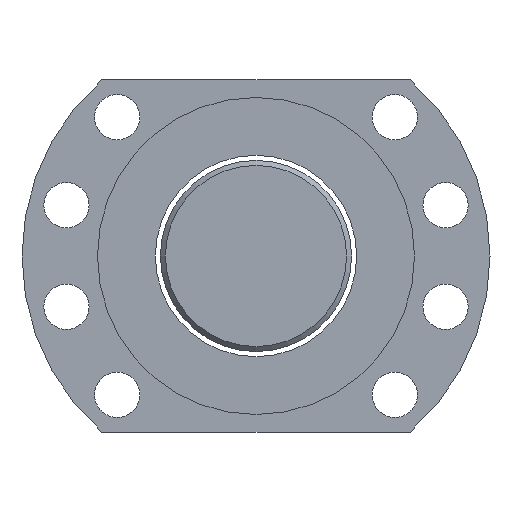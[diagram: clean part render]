
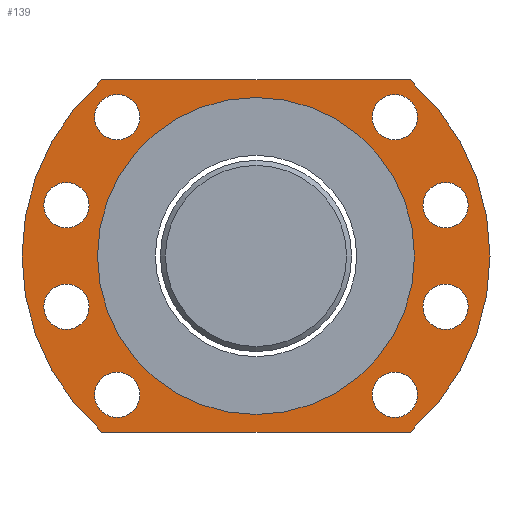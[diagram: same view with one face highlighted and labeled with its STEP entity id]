
A CAD part, left-side view. The second image highlights one B-rep face of the part: STEP entity #139.
In plain terms, the highlighted planar face has unit normal (-1, 0, 0).
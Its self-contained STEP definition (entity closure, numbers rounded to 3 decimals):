
#114=PLANE('',#489);
#123=LINE('',#680,#131);
#124=LINE('',#684,#132);
#131=VECTOR('',#562,1.);
#132=VECTOR('',#565,1.);
#139=ADVANCED_FACE('',(#187,#188,#189,#190,#191,#192,#193,#194,#195,#196),
#114,.T.);
#187=FACE_BOUND('',#239,.T.);
#188=FACE_BOUND('',#240,.T.);
#189=FACE_BOUND('',#241,.T.);
#190=FACE_BOUND('',#242,.T.);
#191=FACE_BOUND('',#243,.T.);
#192=FACE_BOUND('',#244,.T.);
#193=FACE_BOUND('',#245,.T.);
#194=FACE_BOUND('',#246,.T.);
#195=FACE_BOUND('',#247,.T.);
#196=FACE_BOUND('',#248,.T.);
#239=EDGE_LOOP('',(#300));
#240=EDGE_LOOP('',(#301));
#241=EDGE_LOOP('',(#302));
#242=EDGE_LOOP('',(#303));
#243=EDGE_LOOP('',(#304));
#244=EDGE_LOOP('',(#305,#306,#307,#308));
#245=EDGE_LOOP('',(#309));
#246=EDGE_LOOP('',(#310));
#247=EDGE_LOOP('',(#311));
#248=EDGE_LOOP('',(#312));
#300=ORIENTED_EDGE('',*,*,#409,.T.);
#301=ORIENTED_EDGE('',*,*,#410,.T.);
#302=ORIENTED_EDGE('',*,*,#411,.F.);
#303=ORIENTED_EDGE('',*,*,#412,.F.);
#304=ORIENTED_EDGE('',*,*,#413,.F.);
#305=ORIENTED_EDGE('',*,*,#414,.T.);
#306=ORIENTED_EDGE('',*,*,#415,.T.);
#307=ORIENTED_EDGE('',*,*,#416,.T.);
#308=ORIENTED_EDGE('',*,*,#417,.T.);
#309=ORIENTED_EDGE('',*,*,#418,.F.);
#310=ORIENTED_EDGE('',*,*,#419,.T.);
#311=ORIENTED_EDGE('',*,*,#420,.F.);
#312=ORIENTED_EDGE('',*,*,#421,.T.);
#375=VERTEX_POINT('',#668);
#376=VERTEX_POINT('',#670);
#377=VERTEX_POINT('',#672);
#378=VERTEX_POINT('',#674);
#379=VERTEX_POINT('',#676);
#380=VERTEX_POINT('',#678);
#381=VERTEX_POINT('',#679);
#382=VERTEX_POINT('',#681);
#383=VERTEX_POINT('',#683);
#384=VERTEX_POINT('',#686);
#385=VERTEX_POINT('',#688);
#386=VERTEX_POINT('',#690);
#387=VERTEX_POINT('',#692);
#409=EDGE_CURVE('',#375,#375,#445,.T.);
#410=EDGE_CURVE('',#376,#376,#446,.T.);
#411=EDGE_CURVE('',#377,#377,#447,.T.);
#412=EDGE_CURVE('',#378,#378,#448,.T.);
#413=EDGE_CURVE('',#379,#379,#449,.T.);
#414=EDGE_CURVE('',#380,#381,#450,.T.);
#415=EDGE_CURVE('',#381,#382,#123,.T.);
#416=EDGE_CURVE('',#382,#383,#451,.T.);
#417=EDGE_CURVE('',#383,#380,#124,.T.);
#418=EDGE_CURVE('',#384,#384,#452,.T.);
#419=EDGE_CURVE('',#385,#385,#453,.T.);
#420=EDGE_CURVE('',#386,#386,#454,.T.);
#421=EDGE_CURVE('',#387,#387,#455,.T.);
#445=CIRCLE('',#478,4.5);
#446=CIRCLE('',#479,4.5);
#447=CIRCLE('',#480,4.5);
#448=CIRCLE('',#481,4.5);
#449=CIRCLE('',#482,4.5);
#450=CIRCLE('',#483,46.5);
#451=CIRCLE('',#484,46.5);
#452=CIRCLE('',#485,31.5);
#453=CIRCLE('',#486,4.5);
#454=CIRCLE('',#487,4.5);
#455=CIRCLE('',#488,4.5);
#478=AXIS2_PLACEMENT_3D('',#667,#550,#551);
#479=AXIS2_PLACEMENT_3D('',#669,#552,#553);
#480=AXIS2_PLACEMENT_3D('',#671,#554,#555);
#481=AXIS2_PLACEMENT_3D('',#673,#556,#557);
#482=AXIS2_PLACEMENT_3D('',#675,#558,#559);
#483=AXIS2_PLACEMENT_3D('',#677,#560,#561);
#484=AXIS2_PLACEMENT_3D('',#682,#563,#564);
#485=AXIS2_PLACEMENT_3D('',#685,#566,#567);
#486=AXIS2_PLACEMENT_3D('',#687,#568,#569);
#487=AXIS2_PLACEMENT_3D('',#689,#570,#571);
#488=AXIS2_PLACEMENT_3D('',#691,#572,#573);
#489=AXIS2_PLACEMENT_3D('',#693,#574,#575);
#550=DIRECTION('',(1.,0.,0.));
#551=DIRECTION('',(0.,0.,1.));
#552=DIRECTION('',(1.,0.,0.));
#553=DIRECTION('',(0.,0.,1.));
#554=DIRECTION('',(-1.,0.,0.));
#555=DIRECTION('',(0.,0.,1.));
#556=DIRECTION('',(-1.,0.,0.));
#557=DIRECTION('',(0.,0.,1.));
#558=DIRECTION('',(-1.,0.,0.));
#559=DIRECTION('',(0.,0.,1.));
#560=DIRECTION('',(-1.,0.,0.));
#561=DIRECTION('',(0.,0.,-1.));
#562=DIRECTION('',(0.,-1.,0.));
#563=DIRECTION('',(-1.,0.,0.));
#564=DIRECTION('',(0.,0.,-1.));
#565=DIRECTION('',(0.,1.,0.));
#566=DIRECTION('',(-1.,0.,0.));
#567=DIRECTION('',(0.,0.,-1.));
#568=DIRECTION('',(1.,0.,0.));
#569=DIRECTION('',(0.,0.,1.));
#570=DIRECTION('',(-1.,0.,0.));
#571=DIRECTION('',(0.,0.,1.));
#572=DIRECTION('',(1.,0.,0.));
#573=DIRECTION('',(0.,0.,1.));
#574=DIRECTION('',(-1.,0.,0.));
#575=DIRECTION('',(0.,0.,-1.));
#667=CARTESIAN_POINT('',(124.817,2.319,3.349));
#668=CARTESIAN_POINT('',(124.817,2.319,7.849));
#669=CARTESIAN_POINT('',(124.817,12.413,-34.322));
#670=CARTESIAN_POINT('',(124.817,12.413,-29.822));
#671=CARTESIAN_POINT('',(124.817,67.567,-34.322));
#672=CARTESIAN_POINT('',(124.817,67.567,-29.822));
#673=CARTESIAN_POINT('',(124.817,77.661,3.349));
#674=CARTESIAN_POINT('',(124.817,77.661,7.849));
#675=CARTESIAN_POINT('',(124.817,77.661,-16.839));
#676=CARTESIAN_POINT('',(124.817,77.661,-12.339));
#677=CARTESIAN_POINT('',(124.817,39.99,-6.745));
#678=CARTESIAN_POINT('',(124.817,70.604,28.255));
#679=CARTESIAN_POINT('',(124.817,70.604,-41.745));
#680=CARTESIAN_POINT('',(124.817,70.604,-41.745));
#681=CARTESIAN_POINT('',(124.817,9.375,-41.745));
#682=CARTESIAN_POINT('',(124.817,39.99,-6.745));
#683=CARTESIAN_POINT('',(124.817,9.375,28.255));
#684=CARTESIAN_POINT('',(124.817,9.375,28.255));
#685=CARTESIAN_POINT('',(124.817,39.99,-6.745));
#686=CARTESIAN_POINT('',(124.817,39.99,-38.245));
#687=CARTESIAN_POINT('',(124.817,2.319,-16.839));
#688=CARTESIAN_POINT('',(124.817,2.319,-12.339));
#689=CARTESIAN_POINT('',(124.817,67.567,20.832));
#690=CARTESIAN_POINT('',(124.817,67.567,25.332));
#691=CARTESIAN_POINT('',(124.817,12.413,20.832));
#692=CARTESIAN_POINT('',(124.817,12.413,25.332));
#693=CARTESIAN_POINT('',(124.817,39.99,-6.745));
